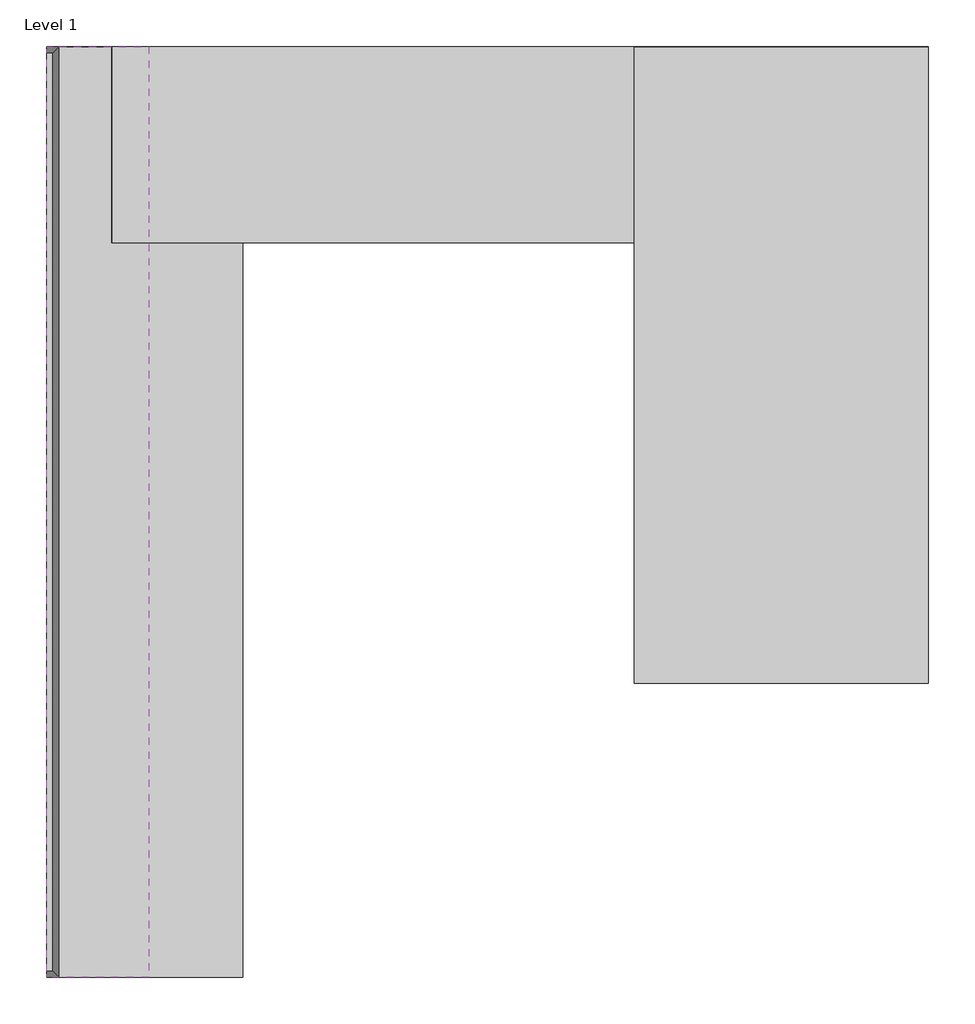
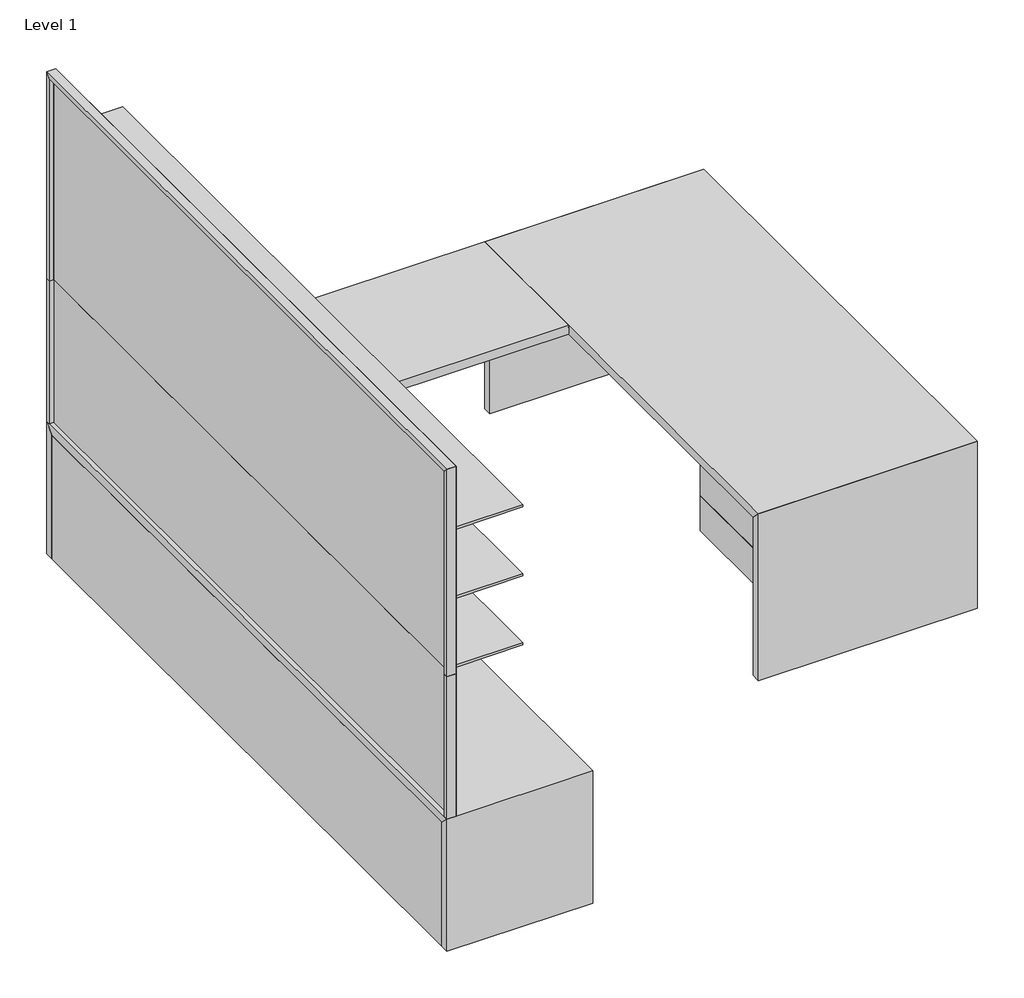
# One storey: 5 proxies.
"""IFC4 building model written with IfcOpenShell, lengths in millimetres."""

from ifc_helpers import new_model, si_unit, origin, place, context, project, spatial, transform, mapped, element, save
from components import generic_models_d8679140, generic_models_1dcdf34e, generic_models_54604521, generic_models_5e1e4048, generic_models_7eac79f3

model = new_model("IFC4")

# Units and contexts
model_context = context("Model", 3, world=origin())
ifc_project = project(units=[si_unit("LENGTHUNIT", "METRE", prefix="MILLI")], contexts=[model_context])

# Site, building, storey
site = spatial("IfcSite", under=ifc_project)
building = spatial("IfcBuilding", under=site)
storey = spatial("IfcBuildingStorey", under=building, Name="Level 1", Elevation=0.0)

# Proxies
placement = place(None, origin())
generic_models_shape = generic_models_d8679140(model_context)
element("IfcBuildingElementProxy", 1, Name="AERO^OFFICE 4_114 WALL HUNG-FULL TACK", ObjectType="AERO^OFFICE 4_114 WALL HUNG-FULL TACK", at=placement, inside=storey, context=model_context, shape_type="MappedRepresentation", body=[
    mapped(generic_models_shape, transform((19.05, -2895.6, 584.2), x_axis=(0.0, 1.0, 0.0), y_axis=(0.0, 0.0, 1.0), z_axis=(1.0, 0.0, 0.0))),
])
generic_models_2_shape = generic_models_1dcdf34e(model_context)
element("IfcBuildingElementProxy", 2, Name="AERO^OFFICE 4_120 WALL HUNG-SHELF", ObjectType="AERO^OFFICE 4_120 WALL HUNG-SHELF", at=placement, inside=storey, context=model_context, shape_type="MappedRepresentation", body=[
    mapped(generic_models_2_shape, transform((38.1, -2895.6, 1212.85), x_axis=(0.0, 1.0, 0.0), y_axis=(0.0, 0.0, 1.0), z_axis=(1.0, 0.0, 0.0))),
])
generic_models_3_shape = generic_models_54604521(model_context)
element("IfcBuildingElementProxy", 3, Name="AERO^OFFICE 4_36x78 DESK PED RT HALF MOD-PARTS SOLID", ObjectType="AERO^OFFICE 4_36x78 DESK PED RT HALF MOD-PARTS SOLID", at=placement, inside=storey, context=model_context, shape_type="MappedRepresentation", body=[
    mapped(generic_models_3_shape, transform((1828.8, -1981.2, 698.5), x_axis=(1.0, 0.0, 0.0), y_axis=(0.0, 0.0, 1.0), z_axis=(0.0, -1.0, 0.0))),
])
generic_models_4_shape = generic_models_5e1e4048(model_context)
element("IfcBuildingElementProxy", 4, Name="AERO^OFFICE 4_120 CREDENZA LEFT-PARTS SOLID", ObjectType="AERO^OFFICE 4_120 CREDENZA LEFT-PARTS SOLID", at=placement, inside=storey, context=model_context, shape_type="MappedRepresentation", body=[
    mapped(generic_models_4_shape, transform((609.6, -2895.6, 546.1), x_axis=(0.0, 1.0, 0.0), y_axis=(0.0, 0.0, 1.0), z_axis=(1.0, 0.0, 0.0))),
])
generic_models_5_shape = generic_models_7eac79f3(model_context)
element("IfcBuildingElementProxy", 5, Name="AERO^OFFICE 4_24x64 BRIDGE LT-PARTS SOLID", ObjectType="AERO^OFFICE 4_24x64 BRIDGE LT-PARTS SOLID", at=placement, inside=storey, context=model_context, shape_type="MappedRepresentation", body=[
    mapped(generic_models_5_shape, transform((203.2, -609.6, 698.5), x_axis=(1.0, 0.0, 0.0), y_axis=(0.0, 0.0, 1.0), z_axis=(0.0, -1.0, 0.0))),
])

save(model, "model.ifc")
